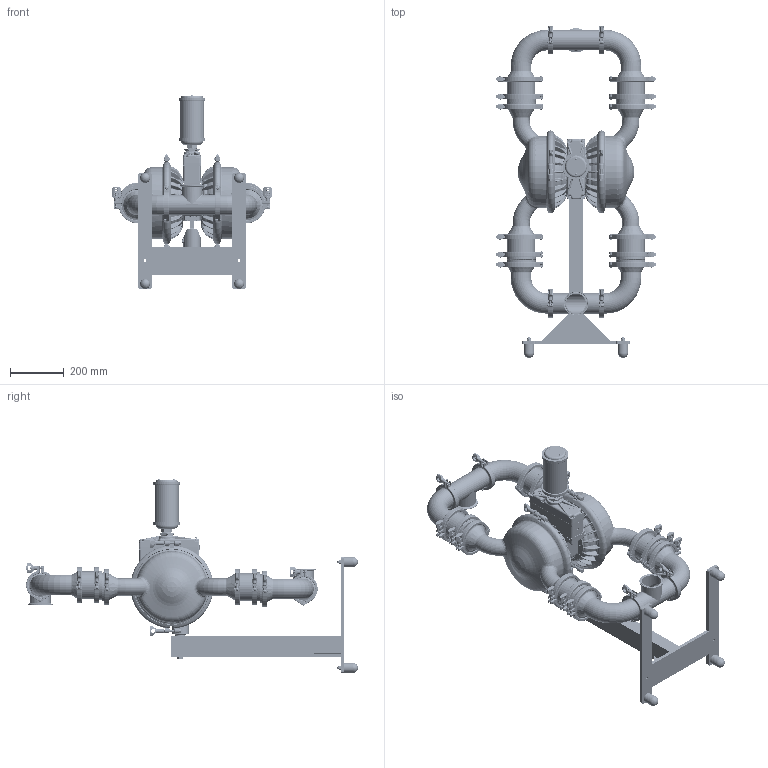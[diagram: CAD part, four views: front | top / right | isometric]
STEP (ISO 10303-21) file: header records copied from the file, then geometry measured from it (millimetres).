
FILE_DESCRIPTION((''),'2;1');
FILE_NAME('PS15_SS_SANIFLO_HS_FL_SW0003','2015-05-01T',('nathan.hale'),(''),'PRO/ENGINEER BY PARAMETRIC TECHNOLOGY CORPORATION, 2013320','PRO/ENGINEER BY PARAMETRIC TECHNOLOGY CORPORATION, 2013320','');
FILE_SCHEMA(('CONFIG_CONTROL_DESIGN'));
Products named in the file (1): PS15_SS_SANIFLO_HS_FL_SW0003
Bounding box: 597.97 x 1233.26 x 721.39 mm (x, y, z)
Volume: 11842827.8 mm3; surface area: 3882562.5 mm2
Topology: 30 solids, 51 shells, 19985 faces, 50218 edges, 30774 vertices
Faces by surface type: plane 8636, cylinder 3589, bspline 3261, torus 2527, cone 1212, sphere 677, extrusion 83
Entity records: 1234452 total; most frequent: CARTESIAN_POINT 776984, ORIENTED_EDGE 100016, DIRECTION 89515, EDGE_CURVE 50008, AXIS2_PLACEMENT_3D 31531, VERTEX_POINT 30774, VECTOR 26453, LINE 26370
